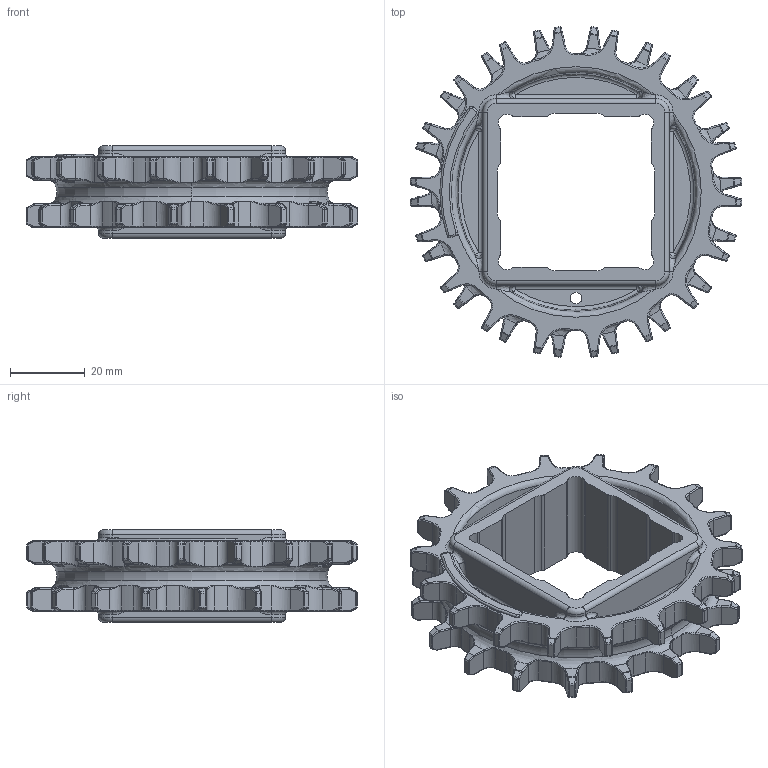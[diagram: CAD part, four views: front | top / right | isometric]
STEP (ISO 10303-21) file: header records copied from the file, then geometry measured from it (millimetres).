
FILE_DESCRIPTION(/* description */ (''),/* implementation_level */ '2;1');
FILE_NAME(/* name */ 'HS-1100-N-18T.stp',/* time_stamp */ '2025-09-11T17:20:26+08:00',/* author */ (''),/* organization */ (''),/* preprocessor_version */ 'ST-DEVELOPER v15',/* originating_system */ 'SIEMENS PLM Software NX 8.5',/* authorisation */ '');
FILE_SCHEMA (('AP203_CONFIGURATION_CONTROLLED_3D_DESIGN_OF_MECHANICAL_PARTS_AND_ASSEMBLIES_MIM_LF { 1 0 10303 403 2 1 2}'));
Length unit declared in the file: millimetre
Products named in the file (1): Admi2A205363711m
Bounding box: 88.69 x 88.39 x 24.7 mm (x, y, z)
Volume: 47892.2 mm3; surface area: 22382.4 mm2
Topology: 1 solids, 1 shells, 1616 faces, 3894 edges, 2266 vertices
Faces by surface type: cylinder 571, torus 416, bspline 380, plane 143, cone 90, sphere 16
Entity records: 74270 total; most frequent: CARTESIAN_POINT 28784, ORIENTED_EDGE 7756, DIRECTION 6727, EDGE_CURVE 3878, AXIS2_PLACEMENT_3D 2944, VERTEX_POINT 2266, CIRCLE 1703, EDGE_LOOP 1622
